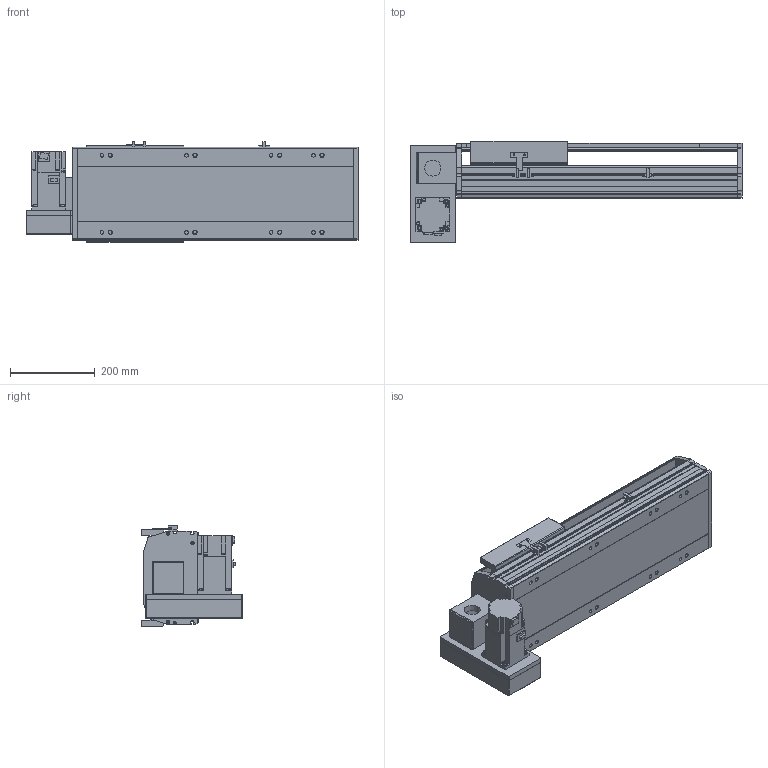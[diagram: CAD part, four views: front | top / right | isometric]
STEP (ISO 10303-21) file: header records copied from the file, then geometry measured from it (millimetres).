
FILE_DESCRIPTION(/* description */ ('STEP AP214'),/* implementation_level */ '2;1');
FILE_NAME(/* name */ 'PBS220-P40-S300-LD-T75-C1-N(0)',/* time_stamp */ '2022-06-27T09:42:43+02:00',/* author */ ('License CC BY-ND 4.0'),/* organization */ ('CADENAS'),/* preprocessor_version */ 'ST-DEVELOPER v18.102',/* originating_system */ 'PARTsolutions',/* authorisation */ ' ');
FILE_SCHEMA (('AUTOMOTIVE_DESIGN {1 0 10303 214 3 1 1}'));
Length unit declared in the file: millimetre
Products named in the file (7): PBS220-P40-S300-LD-T75-C1-N(0); PBS220_sensor; PBS220_plant; PBS220_sliser; T75-p1; PBS220T-LD_motors; PBS220-S300()_body
Assembly tree (8 placements, depth 2):
  PBS220-P40-S300-LD-T75-C1-N(0)
    PBS220_sensor  x3
    PBS220_plant
    PBS220_sliser
    T75-p1
    PBS220T-LD_motors
    PBS220-S300()_body
Bounding box: 784 x 239 x 238.5 mm (x, y, z)
Volume: 12028838.6 mm3; surface area: 1298482.5 mm2
Topology: 8 solids, 8 shells, 866 faces, 2284 edges, 1486 vertices
Faces by surface type: plane 582, cylinder 252, cone 32
Full cylindrical faces by diameter (mm): 2.013 x4, 4.5 x14, 4.917 x4, 6 x7, 6.647 x8, 8 x10, 8.376 x8, 8.5 x8, 10 x6, 14 x8, 38 x2, 40 x1, 70 x1
Entity records: 24380 total; most frequent: DIRECTION 4239, CARTESIAN_POINT 4228, ORIENTED_EDGE 3962, EDGE_CURVE 1981, AXIS2_PLACEMENT_3D 1451, VERTEX_POINT 1352, LINE 1337, VECTOR 1337
